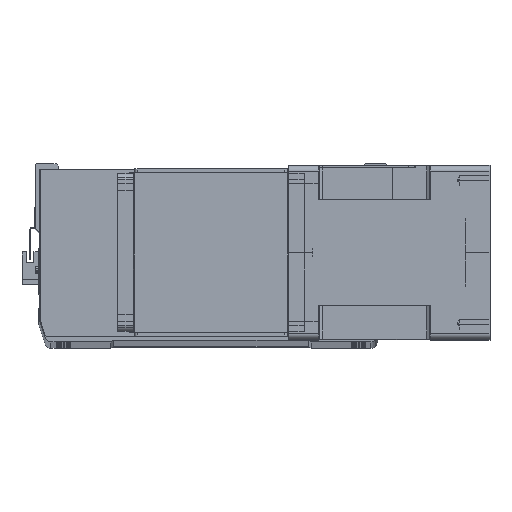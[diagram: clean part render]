
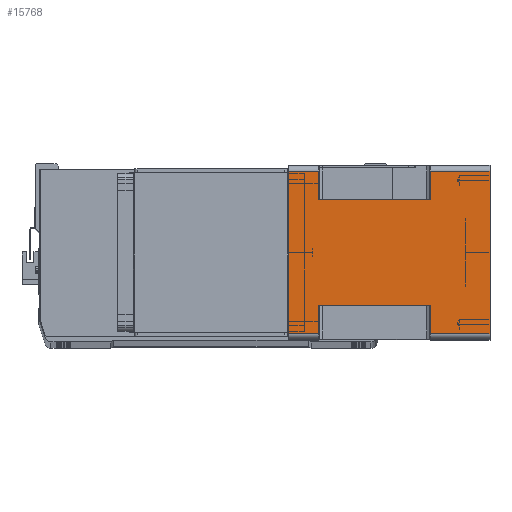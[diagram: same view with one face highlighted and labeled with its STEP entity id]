
A CAD part, top view. The second image highlights one B-rep face of the part: STEP entity #15768.
In plain terms, the highlighted planar face has unit normal (0, 0, 1) as drawn and (1, 0, 0) by its records, which use the part's own axes.
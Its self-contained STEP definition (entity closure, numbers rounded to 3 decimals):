
#342 = LINE ( 'NONE', #19708, #13677 ) ;
#539 = PLANE ( 'NONE',  #2927 ) ;
#641 = CARTESIAN_POINT ( 'NONE',  ( 71., -66., -164. ) ) ;
#1072 = CARTESIAN_POINT ( 'NONE',  ( 71., 66., -115.5 ) ) ;
#1333 = DIRECTION ( 'NONE',  ( 0., 1., 0. ) ) ;
#1843 = CARTESIAN_POINT ( 'NONE',  ( 71., -66., -164. ) ) ;
#2220 = CARTESIAN_POINT ( 'NONE',  ( 71., 66., -164. ) ) ;
#2927 = AXIS2_PLACEMENT_3D ( 'NONE', #641, #18910, #24505 ) ;
#2945 = VERTEX_POINT ( 'NONE', #6128 ) ;
#3112 = LINE ( 'NONE', #13978, #5614 ) ;
#3588 = CARTESIAN_POINT ( 'NONE',  ( 71., 66., -164. ) ) ;
#4601 = DIRECTION ( 'NONE',  ( 0., 0., 1. ) ) ;
#5309 = VERTEX_POINT ( 'NONE', #6407 ) ;
#5614 = VECTOR ( 'NONE', #5958, 1000. ) ;
#5958 = DIRECTION ( 'NONE',  ( 0., 1., 0. ) ) ;
#6128 = CARTESIAN_POINT ( 'NONE',  ( 71., 43., -24.5 ) ) ;
#6407 = CARTESIAN_POINT ( 'NONE',  ( 71., -66., -24.5 ) ) ;
#6513 = CARTESIAN_POINT ( 'NONE',  ( 71., 66., -24.5 ) ) ;
#8186 = CARTESIAN_POINT ( 'NONE',  ( 71., -66., -164. ) ) ;
#8394 = VERTEX_POINT ( 'NONE', #11901 ) ;
#8663 = LINE ( 'NONE', #17650, #23191 ) ;
#8671 = LINE ( 'NONE', #1843, #24004 ) ;
#8689 = LINE ( 'NONE', #22592, #26547 ) ;
#8810 = ORIENTED_EDGE ( 'NONE', *, *, #33780, .T. ) ;
#9377 = DIRECTION ( 'NONE',  ( 0., -1., 0. ) ) ;
#9480 = ORIENTED_EDGE ( 'NONE', *, *, #23289, .T. ) ;
#9517 = EDGE_CURVE ( 'NONE', #8394, #30107, #30656, .T. ) ;
#10316 = VERTEX_POINT ( 'NONE', #26738 ) ;
#10625 = CARTESIAN_POINT ( 'NONE',  ( 71., -66., -115.5 ) ) ;
#10703 = CARTESIAN_POINT ( 'NONE',  ( 71., -43., -24.5 ) ) ;
#10780 = ORIENTED_EDGE ( 'NONE', *, *, #27053, .T. ) ;
#10911 = DIRECTION ( 'NONE',  ( 0., 0., 1. ) ) ;
#10990 = DIRECTION ( 'NONE',  ( 0., 1., 0. ) ) ;
#11656 = DIRECTION ( 'NONE',  ( 0., 0., 1. ) ) ;
#11901 = CARTESIAN_POINT ( 'NONE',  ( 71., -43., -115.5 ) ) ;
#12037 = ORIENTED_EDGE ( 'NONE', *, *, #26003, .F. ) ;
#12404 = CARTESIAN_POINT ( 'NONE',  ( 71., -66., -115.5 ) ) ;
#12465 = VERTEX_POINT ( 'NONE', #2220 ) ;
#12476 = VERTEX_POINT ( 'NONE', #8186 ) ;
#12826 = VECTOR ( 'NONE', #15386, 1000. ) ;
#13140 = EDGE_LOOP ( 'NONE', ( #29915, #31070, #14840, #10780, #33010, #9480, #28196, #20838, #26103, #30152, #12037, #8810 ) ) ;
#13253 = EDGE_CURVE ( 'NONE', #10316, #29891, #342, .T. ) ;
#13546 = LINE ( 'NONE', #21002, #33516 ) ;
#13677 = VECTOR ( 'NONE', #1333, 1000. ) ;
#13978 = CARTESIAN_POINT ( 'NONE',  ( 71., -66., -24.5 ) ) ;
#14085 = DIRECTION ( 'NONE',  ( 0., 0., 1. ) ) ;
#14840 = ORIENTED_EDGE ( 'NONE', *, *, #33679, .F. ) ;
#15304 = VERTEX_POINT ( 'NONE', #6513 ) ;
#15386 = DIRECTION ( 'NONE',  ( 0., -1., 0. ) ) ;
#15418 = DIRECTION ( 'NONE',  ( 0., 0., -1. ) ) ;
#15768 = ADVANCED_FACE ( 'NONE', ( #20260 ), #539, .T. ) ;
#15983 = LINE ( 'NONE', #18942, #25546 ) ;
#16174 = EDGE_CURVE ( 'NONE', #2945, #19849, #13546, .T. ) ;
#16805 = CARTESIAN_POINT ( 'NONE',  ( 71., 43., -115.5 ) ) ;
#17508 = LINE ( 'NONE', #29136, #23773 ) ;
#17650 = CARTESIAN_POINT ( 'NONE',  ( 71., 43., -115.5 ) ) ;
#18910 = DIRECTION ( 'NONE',  ( 1., 0., 0. ) ) ;
#18942 = CARTESIAN_POINT ( 'NONE',  ( 71., -66., -164. ) ) ;
#19260 = VECTOR ( 'NONE', #11656, 1000. ) ;
#19708 = CARTESIAN_POINT ( 'NONE',  ( 71., -66., 0. ) ) ;
#19849 = VERTEX_POINT ( 'NONE', #16805 ) ;
#20260 = FACE_OUTER_BOUND ( 'NONE', #13140, .T. ) ;
#20274 = EDGE_CURVE ( 'NONE', #2945, #15304, #3112, .T. ) ;
#20649 = CARTESIAN_POINT ( 'NONE',  ( 71., -66., -164. ) ) ;
#20838 = ORIENTED_EDGE ( 'NONE', *, *, #20274, .T. ) ;
#21002 = CARTESIAN_POINT ( 'NONE',  ( 71., 43., -164. ) ) ;
#21938 = EDGE_CURVE ( 'NONE', #8394, #29240, #17508, .T. ) ;
#22185 = LINE ( 'NONE', #3588, #19260 ) ;
#22592 = CARTESIAN_POINT ( 'NONE',  ( 71., 66., -164. ) ) ;
#23191 = VECTOR ( 'NONE', #9377, 1000. ) ;
#23210 = LINE ( 'NONE', #20649, #26098 ) ;
#23289 = EDGE_CURVE ( 'NONE', #24317, #19849, #8663, .T. ) ;
#23773 = VECTOR ( 'NONE', #10911, 1000. ) ;
#24004 = VECTOR ( 'NONE', #4601, 1000. ) ;
#24234 = DIRECTION ( 'NONE',  ( 0., 0., 1. ) ) ;
#24317 = VERTEX_POINT ( 'NONE', #1072 ) ;
#24505 = DIRECTION ( 'NONE',  ( 0., 1., 0. ) ) ;
#25546 = VECTOR ( 'NONE', #10990, 1000. ) ;
#25963 = EDGE_CURVE ( 'NONE', #15304, #29891, #8689, .T. ) ;
#26003 = EDGE_CURVE ( 'NONE', #5309, #10316, #23210, .T. ) ;
#26098 = VECTOR ( 'NONE', #24234, 1000. ) ;
#26103 = ORIENTED_EDGE ( 'NONE', *, *, #25963, .T. ) ;
#26547 = VECTOR ( 'NONE', #14085, 1000. ) ;
#26738 = CARTESIAN_POINT ( 'NONE',  ( 71., -66., 0. ) ) ;
#27053 = EDGE_CURVE ( 'NONE', #12476, #12465, #15983, .T. ) ;
#27078 = CARTESIAN_POINT ( 'NONE',  ( 71., -43., -24.5 ) ) ;
#27674 = CARTESIAN_POINT ( 'NONE',  ( 71., 66., 0. ) ) ;
#28196 = ORIENTED_EDGE ( 'NONE', *, *, #16174, .F. ) ;
#29136 = CARTESIAN_POINT ( 'NONE',  ( 71., -43., -164. ) ) ;
#29240 = VERTEX_POINT ( 'NONE', #27078 ) ;
#29742 = EDGE_CURVE ( 'NONE', #12465, #24317, #22185, .T. ) ;
#29891 = VERTEX_POINT ( 'NONE', #27674 ) ;
#29915 = ORIENTED_EDGE ( 'NONE', *, *, #21938, .F. ) ;
#30107 = VERTEX_POINT ( 'NONE', #10625 ) ;
#30152 = ORIENTED_EDGE ( 'NONE', *, *, #13253, .F. ) ;
#30656 = LINE ( 'NONE', #12404, #12826 ) ;
#31070 = ORIENTED_EDGE ( 'NONE', *, *, #9517, .T. ) ;
#31588 = DIRECTION ( 'NONE',  ( 0., 1., 0. ) ) ;
#31884 = VECTOR ( 'NONE', #31588, 1000. ) ;
#32308 = LINE ( 'NONE', #10703, #31884 ) ;
#33010 = ORIENTED_EDGE ( 'NONE', *, *, #29742, .T. ) ;
#33516 = VECTOR ( 'NONE', #15418, 1000. ) ;
#33679 = EDGE_CURVE ( 'NONE', #12476, #30107, #8671, .T. ) ;
#33780 = EDGE_CURVE ( 'NONE', #5309, #29240, #32308, .T. ) ;
